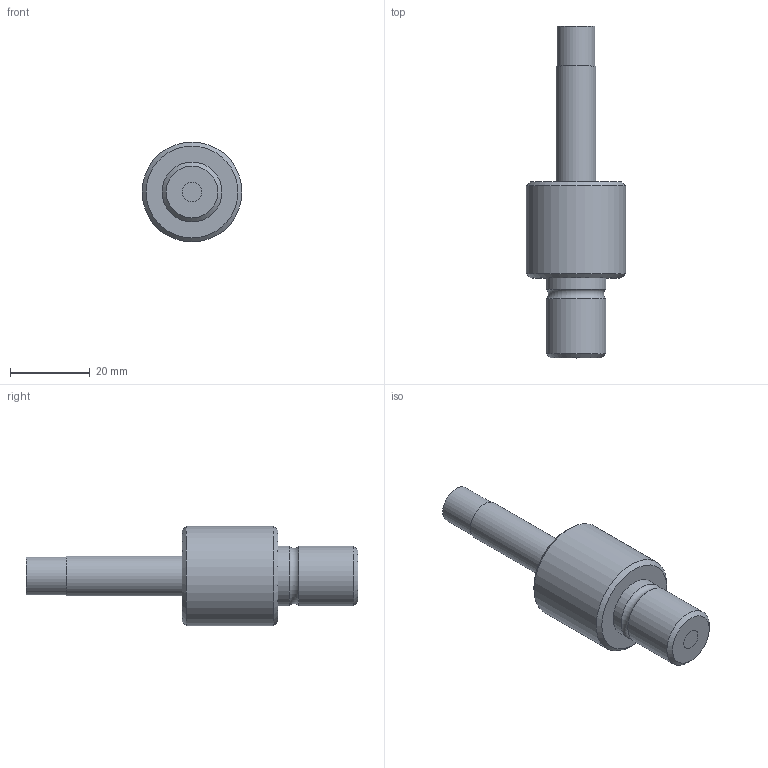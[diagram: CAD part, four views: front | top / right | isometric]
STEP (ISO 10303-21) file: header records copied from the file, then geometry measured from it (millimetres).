
FILE_DESCRIPTION(/* description */ (''),/* implementation_level */ '2;1');
FILE_NAME(/* name */ '//sv004/特品事業部/特品共通フォルダ/☆社外用データテスト/01_製品関連/0121_ライトガイド関連/3D図面/RLGB1-5L1000 受光部.step',/* time_stamp */ '2022-11-01T10:38:32+09:00',/* author */ (''),/* organization */ (''),/* preprocessor_version */ 'ST-DEVELOPER v19',/* originating_system */ 'Autodesk Translation Framework v11.7.0.108',/* authorisation */ '');
FILE_SCHEMA (('AUTOMOTIVE_DESIGN { 1 0 10303 214 3 1 1 }'));
Length unit declared in the file: millimetre
Products named in the file (1): RLGB1-5L1000 受光部
Bounding box: 25 x 83 x 25 mm (x, y, z)
Volume: 18156.9 mm3; surface area: 7734.1 mm2
Topology: 4 solids, 4 shells, 22 faces, 34 edges, 21 vertices
Faces by surface type: plane 9, cylinder 9, cone 3, torus 1
Full cylindrical faces by diameter (mm): 5 x4, 9.5 x1, 10 x1, 15 x2, 25 x1
Entity records: 542 total; most frequent: DIRECTION 102, CARTESIAN_POINT 78, ORIENTED_EDGE 68, AXIS2_PLACEMENT_3D 45, EDGE_CURVE 34, EDGE_LOOP 29, FACE_OUTER_BOUND 22, CIRCLE 22
